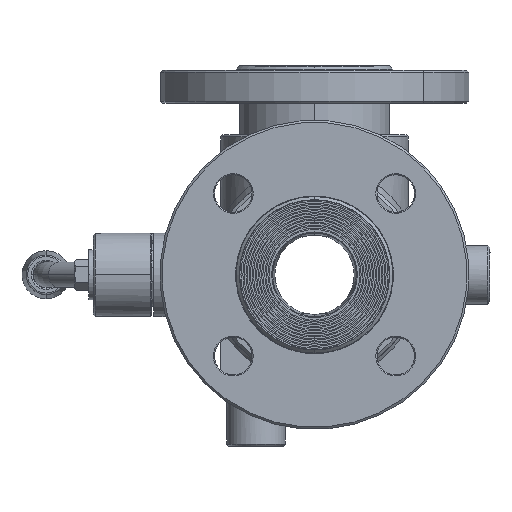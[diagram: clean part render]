
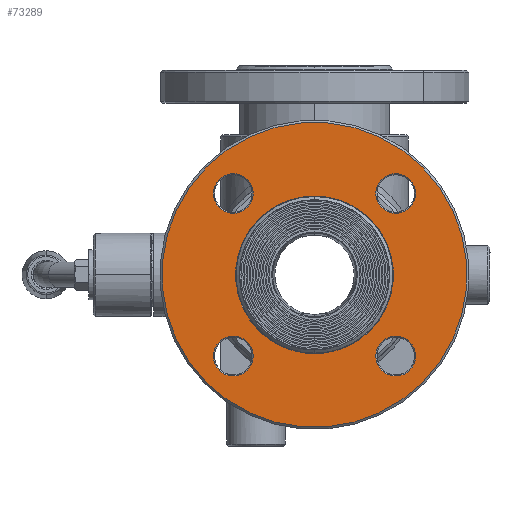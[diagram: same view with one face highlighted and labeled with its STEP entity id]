
A CAD part, left-side view. The second image highlights one B-rep face of the part: STEP entity #73289.
In plain terms, the highlighted planar face has unit normal (-1, 0, 0).
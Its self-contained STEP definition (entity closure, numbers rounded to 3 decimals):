
#21808=CARTESIAN_POINT('',(-98.,0.,0.));
#21809=DIRECTION('',(-1.,0.,0.));
#21810=DIRECTION('',(0.,0.707,0.707));
#21811=AXIS2_PLACEMENT_3D('',#21808,#21809,#21810);
#21816=CARTESIAN_POINT('',(-98.,0.,0.));
#21817=DIRECTION('',(-1.,0.,0.));
#21818=DIRECTION('',(0.,-0.707,-0.707));
#21819=AXIS2_PLACEMENT_3D('',#21816,#21817,#21818);
#21824=CARTESIAN_POINT('',(-98.,0.,0.));
#21825=DIRECTION('',(-1.,0.,0.));
#21826=DIRECTION('',(0.,0.707,0.707));
#21827=AXIS2_PLACEMENT_3D('',#21824,#21825,#21826);
#21832=CARTESIAN_POINT('',(-98.,0.,0.));
#21833=DIRECTION('',(-1.,0.,0.));
#21834=DIRECTION('',(0.,-0.707,-0.707));
#21835=AXIS2_PLACEMENT_3D('',#21832,#21833,#21834);
#22006=CARTESIAN_POINT('',(-98.,-38.891,-38.891));
#22007=DIRECTION('',(1.,0.,0.));
#22008=DIRECTION('',(0.,-0.707,-0.707));
#22009=AXIS2_PLACEMENT_3D('',#22006,#22007,#22008);
#22036=CARTESIAN_POINT('',(-98.,-38.891,-38.891));
#22037=DIRECTION('',(1.,0.,0.));
#22038=DIRECTION('',(0.,0.707,0.707));
#22039=AXIS2_PLACEMENT_3D('',#22036,#22037,#22038);
#22112=CARTESIAN_POINT('',(-98.,38.891,-38.891));
#22113=DIRECTION('',(1.,0.,0.));
#22114=DIRECTION('',(0.,-0.707,-0.707));
#22115=AXIS2_PLACEMENT_3D('',#22112,#22113,#22114);
#22142=CARTESIAN_POINT('',(-98.,38.891,-38.891));
#22143=DIRECTION('',(1.,0.,0.));
#22144=DIRECTION('',(0.,0.707,0.707));
#22145=AXIS2_PLACEMENT_3D('',#22142,#22143,#22144);
#22218=CARTESIAN_POINT('',(-98.,38.891,38.891));
#22219=DIRECTION('',(1.,0.,0.));
#22220=DIRECTION('',(0.,-0.707,-0.707));
#22221=AXIS2_PLACEMENT_3D('',#22218,#22219,#22220);
#22234=CARTESIAN_POINT('',(-98.,38.891,38.891));
#22235=DIRECTION('',(1.,0.,0.));
#22236=DIRECTION('',(0.,0.707,0.707));
#22237=AXIS2_PLACEMENT_3D('',#22234,#22235,#22236);
#22324=CARTESIAN_POINT('',(-98.,-38.891,38.891));
#22325=DIRECTION('',(1.,0.,0.));
#22326=DIRECTION('',(0.,-0.707,-0.707));
#22327=AXIS2_PLACEMENT_3D('',#22324,#22325,#22326);
#22354=CARTESIAN_POINT('',(-98.,-38.891,38.891));
#22355=DIRECTION('',(1.,0.,0.));
#22356=DIRECTION('',(0.,0.707,0.707));
#22357=AXIS2_PLACEMENT_3D('',#22354,#22355,#22356);
#51060=CARTESIAN_POINT('',(-98.,-32.173,45.608));
#51061=CARTESIAN_POINT('',(-98.,-45.608,32.173));
#51062=VERTEX_POINT('',#51060);
#51063=VERTEX_POINT('',#51061);
#51068=CARTESIAN_POINT('',(-98.,32.173,32.173));
#51069=CARTESIAN_POINT('',(-98.,45.608,45.608));
#51070=VERTEX_POINT('',#51068);
#51071=VERTEX_POINT('',#51069);
#51076=CARTESIAN_POINT('',(-98.,45.608,-32.173));
#51077=CARTESIAN_POINT('',(-98.,32.173,-45.608));
#51078=VERTEX_POINT('',#51076);
#51079=VERTEX_POINT('',#51077);
#51084=CARTESIAN_POINT('',(-98.,-32.173,-32.173));
#51085=CARTESIAN_POINT('',(-98.,-45.608,-45.608));
#51086=VERTEX_POINT('',#51084);
#51087=VERTEX_POINT('',#51085);
#51124=CARTESIAN_POINT('',(-98.,26.693,26.693));
#51125=CARTESIAN_POINT('',(-98.,-26.693,-26.693));
#51126=VERTEX_POINT('',#51124);
#51127=VERTEX_POINT('',#51125);
#51140=CARTESIAN_POINT('',(-98.,51.619,51.619));
#51141=CARTESIAN_POINT('',(-98.,-51.619,-51.619));
#51142=VERTEX_POINT('',#51140);
#51143=VERTEX_POINT('',#51141);
#73250=CARTESIAN_POINT('',(-98.,0.,0.));
#73251=DIRECTION('',(-1.,0.,0.));
#73252=DIRECTION('',(0.,-0.707,-0.707));
#73253=AXIS2_PLACEMENT_3D('',#73250,#73251,#73252);
#73254=PLANE('',#73253);
#73256=ORIENTED_EDGE('',*,*,#73255,.F.);
#73258=ORIENTED_EDGE('',*,*,#73257,.F.);
#73259=EDGE_LOOP('',(#73256,#73258));
#73260=FACE_OUTER_BOUND('',#73259,.F.);
#73262=ORIENTED_EDGE('',*,*,#73261,.F.);
#73264=ORIENTED_EDGE('',*,*,#73263,.F.);
#73265=EDGE_LOOP('',(#73262,#73264));
#73266=FACE_BOUND('',#73265,.F.);
#73268=ORIENTED_EDGE('',*,*,#73267,.F.);
#73270=ORIENTED_EDGE('',*,*,#73269,.F.);
#73271=EDGE_LOOP('',(#73268,#73270));
#73272=FACE_BOUND('',#73271,.F.);
#73274=ORIENTED_EDGE('',*,*,#73273,.F.);
#73276=ORIENTED_EDGE('',*,*,#73275,.F.);
#73277=EDGE_LOOP('',(#73274,#73276));
#73278=FACE_BOUND('',#73277,.F.);
#73280=ORIENTED_EDGE('',*,*,#73279,.F.);
#73282=ORIENTED_EDGE('',*,*,#73281,.F.);
#73283=EDGE_LOOP('',(#73280,#73282));
#73284=FACE_BOUND('',#73283,.F.);
#73285=ORIENTED_EDGE('',*,*,#73243,.T.);
#73286=ORIENTED_EDGE('',*,*,#73202,.T.);
#73287=EDGE_LOOP('',(#73285,#73286));
#73288=FACE_BOUND('',#73287,.F.);
#73289=ADVANCED_FACE('',(#73260,#73266,#73272,#73278,#73284,#73288),#73254,.T.);
#21812=CIRCLE('',#21811,73.);
#21820=CIRCLE('',#21819,73.);
#21828=CIRCLE('',#21827,37.75);
#21836=CIRCLE('',#21835,37.75);
#22010=CIRCLE('',#22009,9.5);
#22040=CIRCLE('',#22039,9.5);
#22116=CIRCLE('',#22115,9.5);
#22146=CIRCLE('',#22145,9.5);
#22222=CIRCLE('',#22221,9.5);
#22238=CIRCLE('',#22237,9.5);
#22328=CIRCLE('',#22327,9.5);
#22358=CIRCLE('',#22357,9.5);
#73202=EDGE_CURVE('',#51127,#51126,#21836,.T.);
#73243=EDGE_CURVE('',#51126,#51127,#21828,.T.);
#73255=EDGE_CURVE('',#51142,#51143,#21812,.T.);
#73257=EDGE_CURVE('',#51143,#51142,#21820,.T.);
#73261=EDGE_CURVE('',#51087,#51086,#22010,.T.);
#73263=EDGE_CURVE('',#51086,#51087,#22040,.T.);
#73267=EDGE_CURVE('',#51079,#51078,#22116,.T.);
#73269=EDGE_CURVE('',#51078,#51079,#22146,.T.);
#73273=EDGE_CURVE('',#51070,#51071,#22222,.T.);
#73275=EDGE_CURVE('',#51071,#51070,#22238,.T.);
#73279=EDGE_CURVE('',#51063,#51062,#22328,.T.);
#73281=EDGE_CURVE('',#51062,#51063,#22358,.T.);
